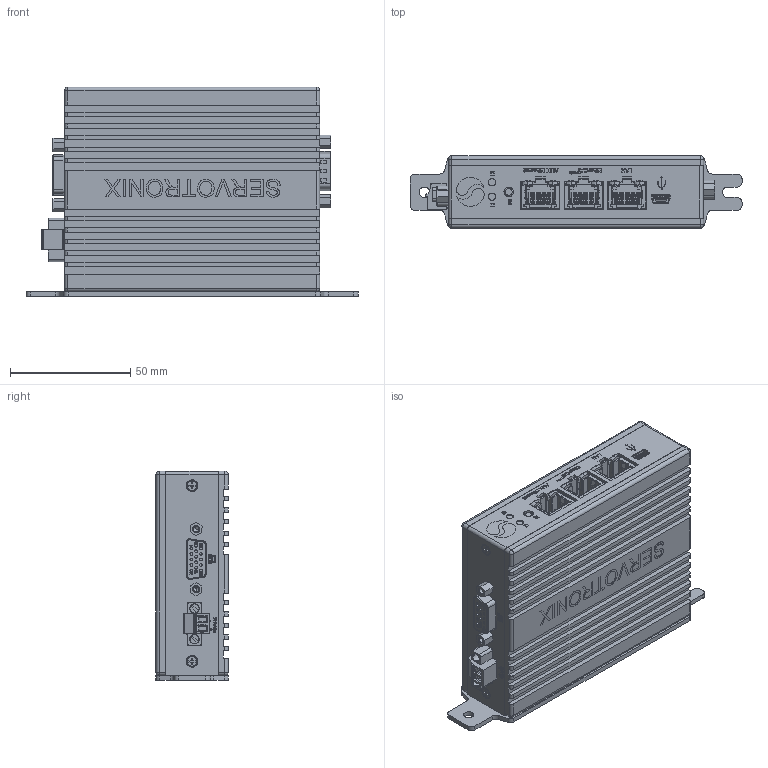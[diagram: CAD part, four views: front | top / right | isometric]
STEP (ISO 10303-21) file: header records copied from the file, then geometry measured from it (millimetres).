
FILE_DESCRIPTION (( 'STEP AP214' ), '1' );
FILE_NAME ('softMC 703_Book mount_v01.STEP', '2018-02-15T06:21:15', ( '' ), ( '' ), 'SwSTEP 2.0', 'SolidWorks 2010', '' );
FILE_SCHEMA (( 'AUTOMOTIVE_DESIGN' ));
Length unit declared in the file: millimetre
Products named in the file (18): mounting panel; led orange; REAR PANEL; BOTTOM COVER; 15 pin HD_F_D?faut; FRONT PANEL; Conn. Molex 548190519; SPACER 4-40x6 ALUTRONIC  DI 661_5_1; TOP COVER; Plug Phoenix 1827703; SD9P_male; button; Conn. Phoenix 1827868; SCR-M3x6-90 grad-DIN965; led green; RJ 45 TE 6116075; SCR-M2.5x5-90 grad; softMC 703_Book mount_v01
Assembly tree (34 placements, depth 2):
  softMC 703_Book mount_v01
    REAR PANEL
    button
    RJ 45 TE 6116075  x3
    Conn. Molex 548190519
    SCR-M2.5x5-90 grad  x12
    Conn. Phoenix 1827868
    SPACER 4-40x6 ALUTRONIC  DI 661_5_1  x4
    SCR-M3x6-90 grad-DIN965  x2
    TOP COVER
    BOTTOM COVER
    led green
    Plug Phoenix 1827703
    15 pin HD_F_D?faut
    mounting panel
    SD9P_male
    FRONT PANEL
    led orange
Bounding box: 138 x 30.06 x 87.2 mm (x, y, z)
Volume: 101030.9 mm3; surface area: 97433.2 mm2
Topology: 34 solids, 34 shells, 5857 faces, 16418 edges, 10786 vertices
Faces by surface type: plane 4163, cylinder 890, bspline 614, cone 126, torus 47, sphere 17
Entity records: 222720 total; most frequent: CARTESIAN_POINT 84512, ORIENTED_EDGE 22802, DIRECTION 18363, EDGE_CURVE 11401, VECTOR 8501, LINE 8501, VERTEX_POINT 7509, AXIS2_PLACEMENT_3D 4931
